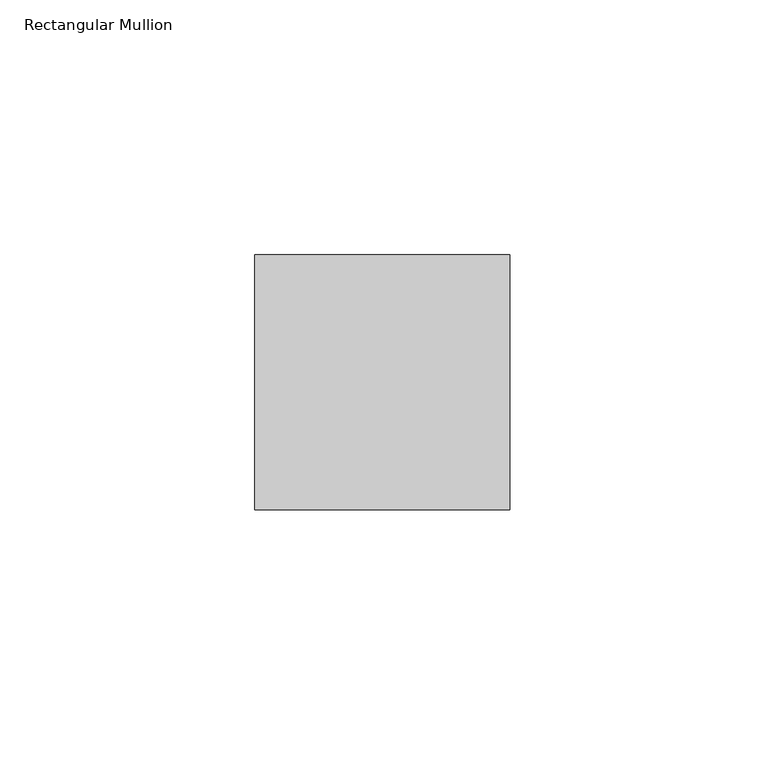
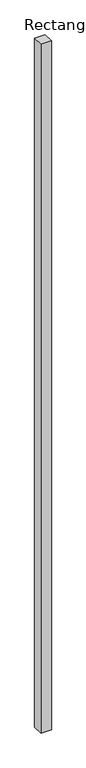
"""IFC4 building model written with IfcOpenShell, lengths in millimetres: member geometry, Rectangular Mullion : Mullion_Curtain Wall_Generic Showcase_50x50mm."""

from ifc_helpers import new_model, si_unit, frame, origin, place, context, project, spatial, polyline, outline, extrude, source, transform, mapped, element, save


def rectangular_mullion_e8d65c67(model_context):
    return source(origin(), model_context, "Body", "SweptSolid", [
        extrude(outline(polyline([(0.0, 50.0), (0.0, 0.0), (-50.0, 0.0), (-50.0, 50.0), (0.0, 50.0)])), frame((0.0, 0.0, -3450.0), z_axis=(0.0, 0.0, 1.0), x_axis=(1.0, 0.0, 0.0)), (0.0, 0.0, 1.0), 3450.0),
    ])


if __name__ == "__main__":
    model = new_model("IFC4")
    model_context = context("Model", 3, world=origin())
    ifc_project = project(units=[si_unit("LENGTHUNIT", "METRE", prefix="MILLI")], contexts=[model_context])
    site = spatial("IfcSite", under=ifc_project)
    building = spatial("IfcBuilding", under=site)
    placement = place(None, origin())
    rectangular_mullion_shape = rectangular_mullion_e8d65c67(model_context)
    element("IfcMember", 1, ObjectType="Rectangular Mullion : Mullion_Curtain Wall_Generic Showcase_50x50mm", at=placement, inside=building, context=model_context, shape_type="MappedRepresentation", body=[
        mapped(rectangular_mullion_shape, transform((0.0, 0.0, 0.0), x_axis=(1.0, 0.0, 0.0), y_axis=(0.0, 1.0, 0.0), z_axis=(0.0, 0.0, 1.0))),
    ])
    save(model, "model.ifc")
